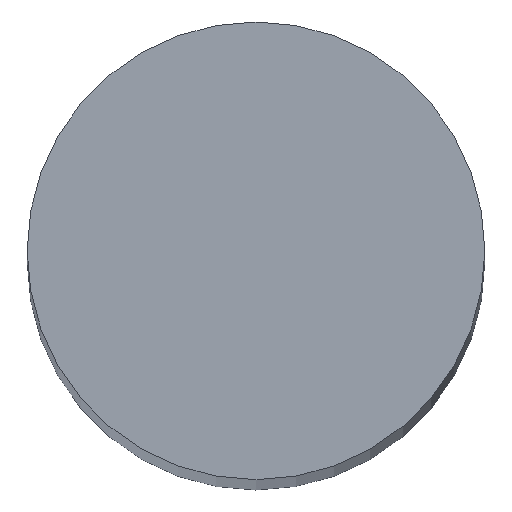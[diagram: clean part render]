
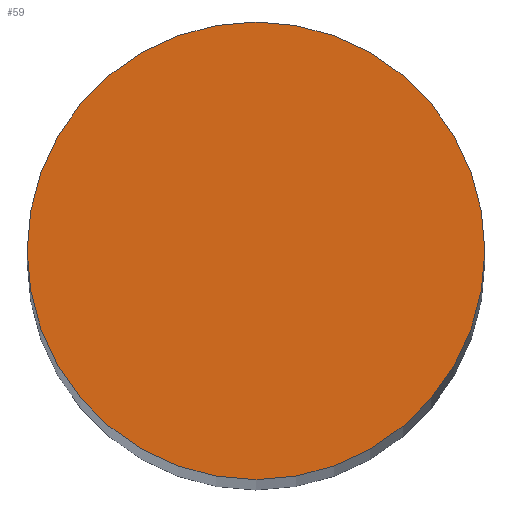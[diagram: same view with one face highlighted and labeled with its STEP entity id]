
A CAD part, top view. The second image highlights one B-rep face of the part: STEP entity #59.
In plain terms, the highlighted planar face has unit normal (0, 0, 1).
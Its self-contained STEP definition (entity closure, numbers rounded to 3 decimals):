
#24 = VERTEX_POINT('',#25);
#25 = CARTESIAN_POINT('',(1.5,0.,38.85));
#31 = EDGE_CURVE('',#24,#24,#32,.T.);
#32 = CIRCLE('',#33,1.5);
#33 = AXIS2_PLACEMENT_3D('',#34,#35,#36);
#34 = CARTESIAN_POINT('',(0.,0.,38.85));
#35 = DIRECTION('',(0.,0.,1.));
#36 = DIRECTION('',(1.,0.,0.));
#59 = ADVANCED_FACE('',(#60),#63,.T.);
#60 = FACE_BOUND('',#61,.T.);
#61 = EDGE_LOOP('',(#62));
#62 = ORIENTED_EDGE('',*,*,#31,.T.);
#63 = PLANE('',#64);
#64 = AXIS2_PLACEMENT_3D('',#65,#66,#67);
#65 = CARTESIAN_POINT('',(0.,0.,38.85)
  );
#66 = DIRECTION('',(0.,0.,1.));
#67 = DIRECTION('',(1.,0.,0.));
